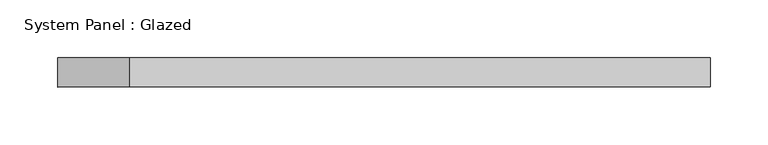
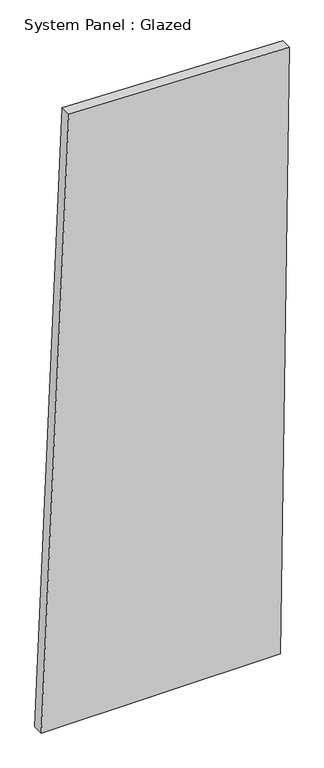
"""IFC4 building model written with IfcOpenShell, lengths in millimetres: plate geometry, System Panel : Glazed."""

from ifc_helpers import new_model, si_unit, frame, origin, place, context, project, spatial, polyline, outline, extrude, source, transform, mapped, element, save


def system_panel_glazed_3298cdbc(model_context):
    return source(origin(), model_context, "Body", "SweptSolid", [
        extrude(outline(polyline([(0.0, -283.4453425), (0.0, 263.6177126), (1457.7827093, 283.4453425), (1472.0089303, -220.612968), (0.0, -283.4453425)])), frame((0.0, -44.45, 0.0), z_axis=(0.0, 1.0, 0.0), x_axis=(0.0, 0.0, 1.0)), (0.0, 0.0, 1.0), 25.4),
    ])


if __name__ == "__main__":
    model = new_model("IFC4")
    model_context = context("Model", 3, world=origin())
    ifc_project = project(units=[si_unit("LENGTHUNIT", "METRE", prefix="MILLI")], contexts=[model_context])
    site = spatial("IfcSite", under=ifc_project)
    building = spatial("IfcBuilding", under=site)
    placement = place(None, origin())
    system_panel_glazed_shape = system_panel_glazed_3298cdbc(model_context)
    element("IfcPlate", 1, ObjectType="System Panel : Glazed", at=placement, inside=building, context=model_context, shape_type="MappedRepresentation", body=[
        mapped(system_panel_glazed_shape, transform((0.0, 0.0, 0.0), x_axis=(1.0, 0.0, 0.0), y_axis=(0.0, 1.0, 0.0), z_axis=(0.0, 0.0, 1.0))),
    ])
    save(model, "model.ifc")
